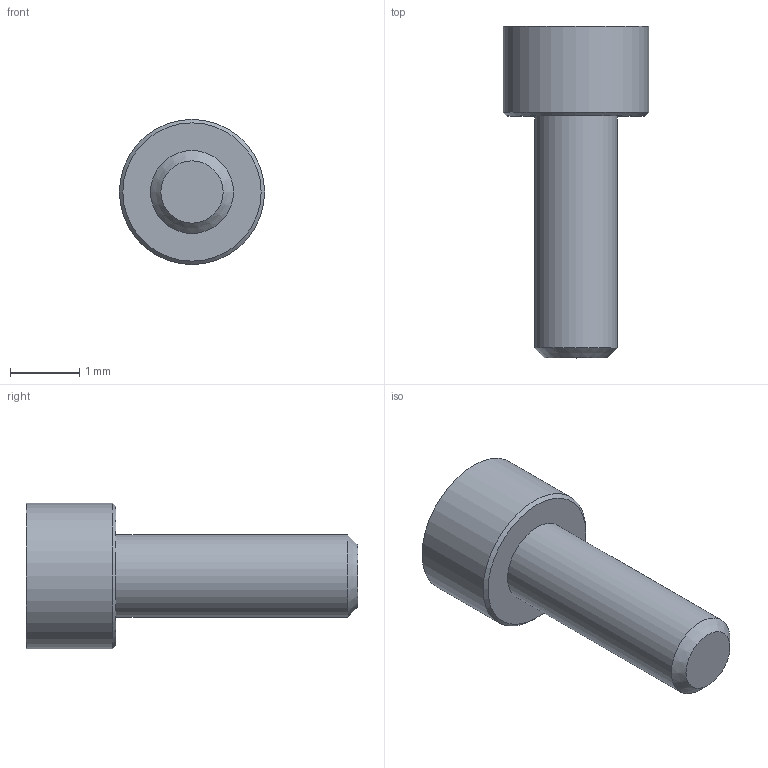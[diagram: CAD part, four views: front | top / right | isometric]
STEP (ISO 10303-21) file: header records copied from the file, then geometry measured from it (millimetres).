
FILE_DESCRIPTION (( 'STEP AP214' ), '1' );
FILE_NAME ('SK-4.STEP', '2018-10-09T18:04:40', ( '' ), ( '' ), 'SwSTEP 2.0', 'SolidWorks 2017', '' );
FILE_SCHEMA (( 'AUTOMOTIVE_DESIGN' ));
Length unit declared in the file: millimetre
Products named in the file (1): SK-4
Bounding box: 2.1 x 4.8 x 2.1 mm (x, y, z)
Volume: 8.3 mm3; surface area: 29.2 mm2
Topology: 1 solids, 1 shells, 20 faces, 48 edges, 32 vertices
Faces by surface type: plane 11, cylinder 7, cone 2
Full cylindrical faces by diameter (mm): 1.2 x1, 2.1 x1
Entity records: 574 total; most frequent: CARTESIAN_POINT 123, ORIENTED_EDGE 84, DIRECTION 80, EDGE_CURVE 42, VERTEX_POINT 30, AXIS2_PLACEMENT_3D 27, VECTOR 26, LINE 26
